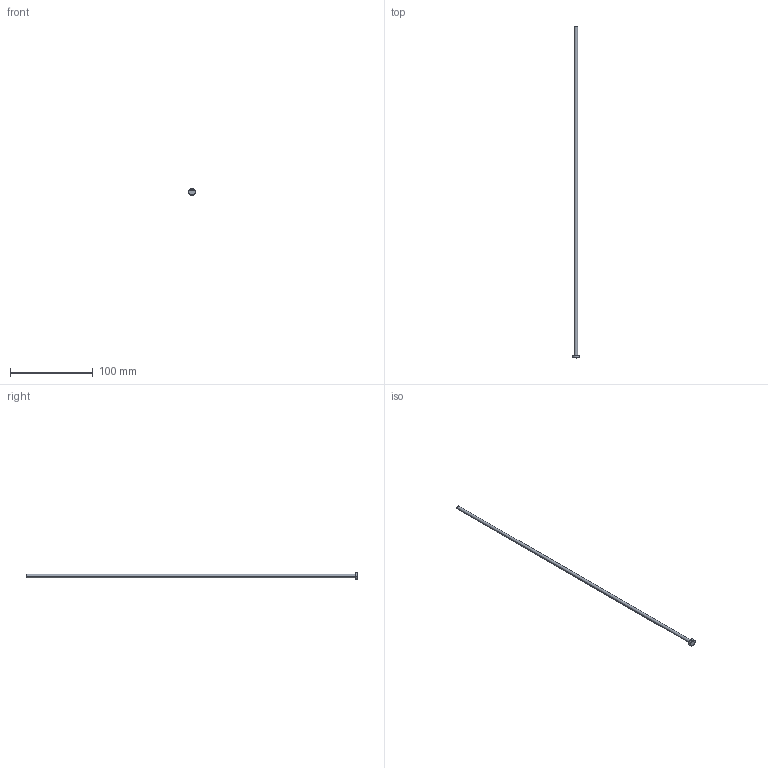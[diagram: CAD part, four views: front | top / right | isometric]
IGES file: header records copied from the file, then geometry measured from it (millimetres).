
Start section: SolidWorks IGES file using analytic representation for surfaces
Global section: file name: C:\Users\User\Downloads\Matripeça 31-08 tar\PB - PINO EXTRATOR TIPO _B_ (CATÁLOGO)\PB04,0\PB04,0400.IGS; native system: SolidWorks 2024; preprocessor: SolidWorks 2024; author: User; date: 260901.142353; units: millimetre
Bounding box: 8 x 400 x 8 mm (x, y, z)
Surface area: 5169.6 mm2 (no closed solid volume)
Topology: 0 solids, 0 shells, 404 faces, 3377 edges, 3377 vertices
Faces by surface type: bspline 390, revolution 14
